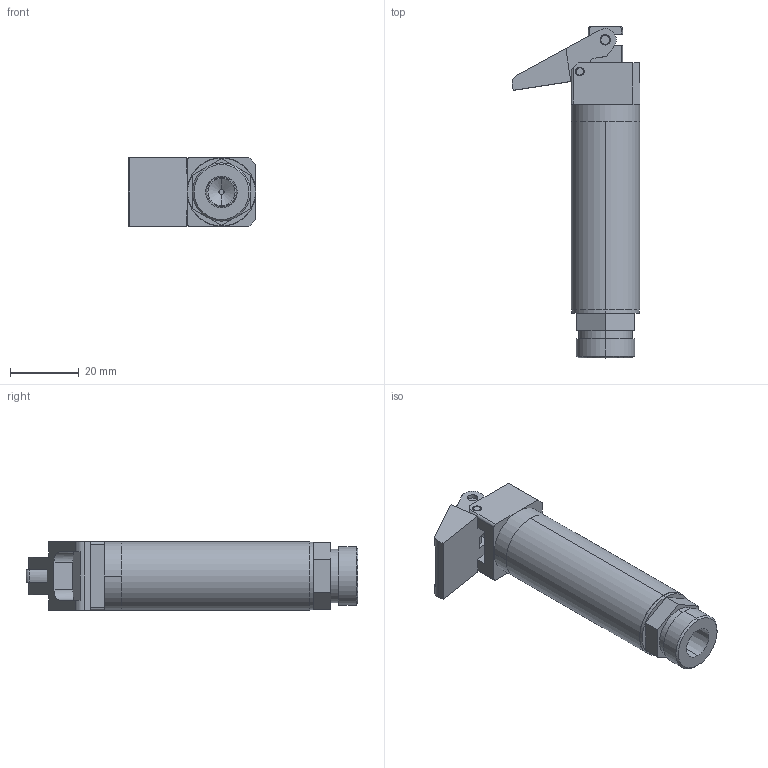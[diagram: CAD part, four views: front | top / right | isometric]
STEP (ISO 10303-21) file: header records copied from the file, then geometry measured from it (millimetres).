
FILE_DESCRIPTION (( 'STEP AP203' ), '1' );
FILE_NAME ('CA.GRF.2095.STEP', '2015-07-21T08:08:36', ( '' ), ( '' ), 'SwSTEP 2.0', 'SolidWorks 2012', '' );
FILE_SCHEMA (( 'CONFIG_CONTROL_DESIGN' ));
Length unit declared in the file: millimetre
Products named in the file (9): CA.GRF.2095; OR.2056; SP.2,5x20M6; SP.3x10M6; GRF20.95.06; GRF20.95.05; GRF20.95.04; GRF20.95.02; GRF20.95.01
Assembly tree (8 placements, depth 2):
  CA.GRF.2095
    GRF20.95.01
    GRF20.95.02
    GRF20.95.04
    GRF20.95.05
    GRF20.95.06
    SP.3x10M6
    SP.2,5x20M6
    OR.2056
Bounding box: 37.19 x 96.77 x 20 mm (x, y, z)
Volume: 19574.5 mm3; surface area: 16187 mm2
Topology: 8 solids, 8 shells, 192 faces, 451 edges, 288 vertices
Faces by surface type: plane 84, cylinder 74, cone 28, torus 6
Entity records: 6550 total; most frequent: DIRECTION 1037, CARTESIAN_POINT 1002, ORIENTED_EDGE 902, EDGE_CURVE 451, AXIS2_PLACEMENT_3D 395, VERTEX_POINT 288, LINE 247, VECTOR 247
